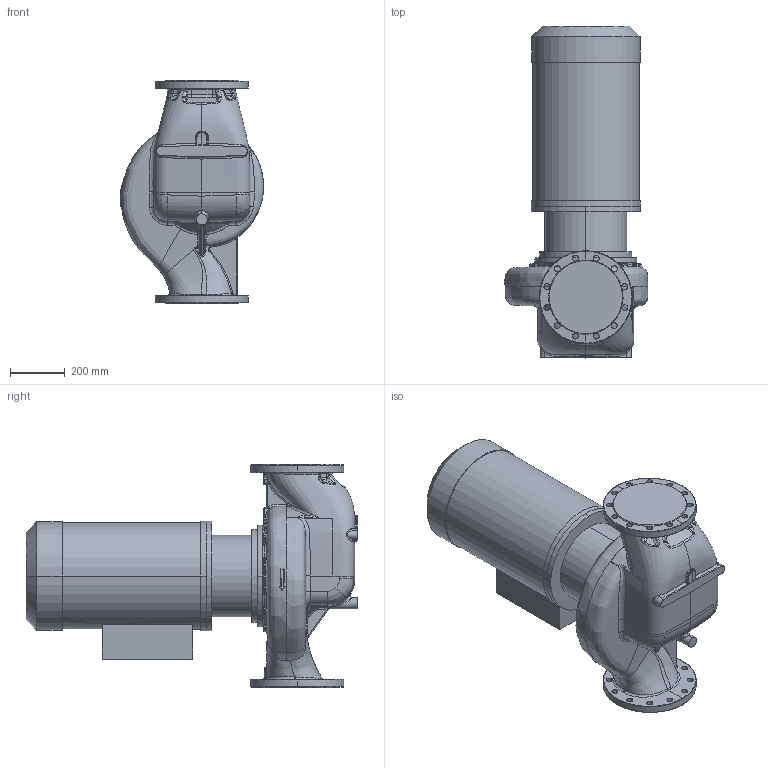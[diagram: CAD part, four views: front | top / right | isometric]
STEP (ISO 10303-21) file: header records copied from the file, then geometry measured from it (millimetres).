
FILE_DESCRIPTION (( 'STEP AP214' ), '1' );
FILE_NAME ('KRL 200-315-4-30.STEP', '2026-04-02T12:48:32', ( '' ), ( '' ), 'SwSTEP 2.0', 'SolidWorks 2016', '' );
FILE_SCHEMA (( 'AUTOMOTIVE_DESIGN' ));
Length unit declared in the file: millimetre
Products named in the file (1): KRL 200-315-4-30
Bounding box: 524.89 x 1215.8 x 820 mm (x, y, z)
Volume: 172694691.9 mm3; surface area: 3337334 mm2
Topology: 4 solids, 4 shells, 860 faces, 2107 edges, 1241 vertices
Faces by surface type: bspline 468, cylinder 203, plane 123, cone 36, torus 22, sphere 8
Entity records: 76670 total; most frequent: CARTESIAN_POINT 51247, ORIENTED_EDGE 4138, DIRECTION 2211, EDGE_CURVE 2069, VERTEX_POINT 1240, AXIS2_PLACEMENT_3D 937, B_SPLINE_CURVE_WITH_KNOTS 933, EDGE_LOOP 931
